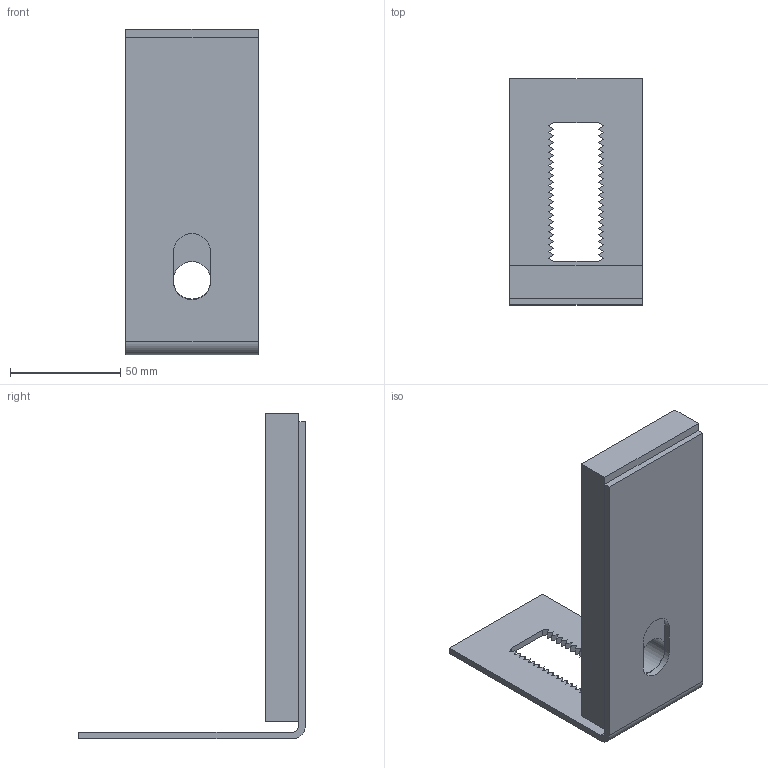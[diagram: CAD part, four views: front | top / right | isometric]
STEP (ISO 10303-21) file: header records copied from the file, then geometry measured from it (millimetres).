
FILE_DESCRIPTION (( 'STEP AP203' ), '1' );
FILE_NAME ('11090343.STEP', '2020-04-02T12:42:55', ( '' ), ( '' ), 'SwSTEP 2.0', 'SolidWorks 2013', '' );
FILE_SCHEMA (( 'CONFIG_CONTROL_DESIGN' ));
Length unit declared in the file: millimetre
Products named in the file (3): Druckplatte; 11090343; Fußwinkel
Assembly tree (2 placements, depth 2):
  11090343
    Fußwinkel
    Druckplatte
Bounding box: 60 x 103 x 147.81 mm (x, y, z)
Volume: 160571.2 mm3; surface area: 51369.7 mm2
Topology: 2 solids, 2 shells, 108 faces, 312 edges, 208 vertices
Faces by surface type: plane 102, cylinder 6
Entity records: 3805 total; most frequent: CARTESIAN_POINT 633, ORIENTED_EDGE 624, DIRECTION 550, EDGE_CURVE 312, VECTOR 300, LINE 300, VERTEX_POINT 208, AXIS2_PLACEMENT_3D 125
